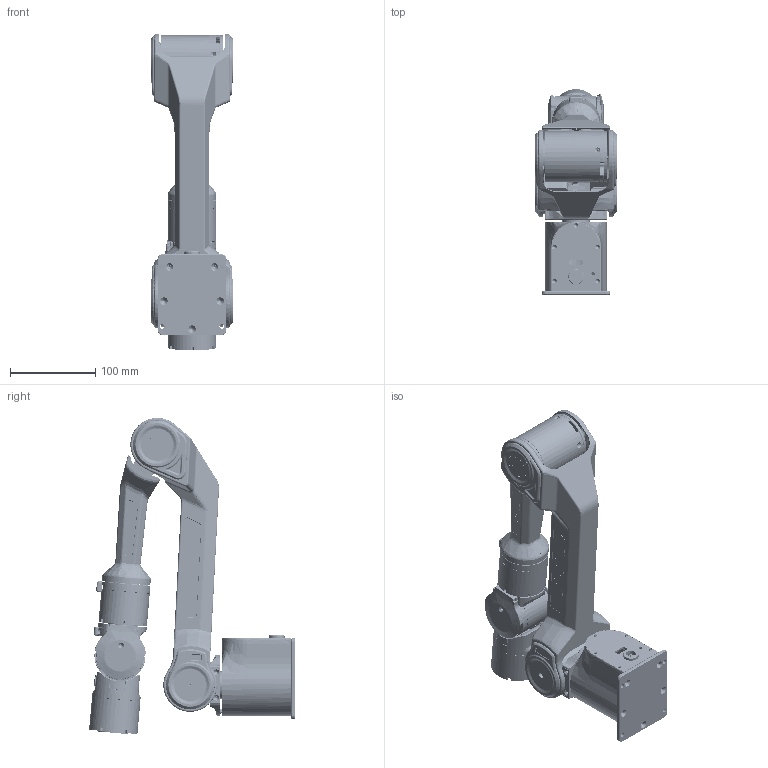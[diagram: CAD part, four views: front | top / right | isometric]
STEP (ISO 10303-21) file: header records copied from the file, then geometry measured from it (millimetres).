
FILE_DESCRIPTION (( 'STEP AP214' ), '1' );
FILE_NAME ('PIPER勤俋樓泂祧20250106.STEP', '2025-01-06T06:26:26', ( '' ), ( '' ), 'SwSTEP 2.0', 'SolidWorks 2021', '' );
FILE_SCHEMA (( 'AUTOMOTIVE_DESIGN' ));
Length unit declared in the file: millimetre
Products named in the file (8): J12; J52; J22釱; J42; M-JXB2-130114-B; 3蟀裝2; PIPER勤俋樓泂祧20250106; 2蟀裝2
Assembly tree (7 placements, depth 2):
  PIPER勤俋樓泂祧20250106
    J12
    J22釱
    2蟀裝2
    3蟀裝2
    J42
    J52
    M-JXB2-130114-B
Bounding box: 97 x 241.63 x 371.56 mm (x, y, z)
Volume: 797031.6 mm3; surface area: 557183.9 mm2
Topology: 29 solids, 47 shells, 11019 faces, 28676 edges, 17518 vertices
Faces by surface type: cylinder 3634, bspline 2998, plane 2764, cone 1623
Entity records: 526709 total; most frequent: CARTESIAN_POINT 279615, ORIENTED_EDGE 56236, DIRECTION 44415, EDGE_CURVE 28120, VERTEX_POINT 17517, AXIS2_PLACEMENT_3D 16235, LINE 11945, VECTOR 11945
